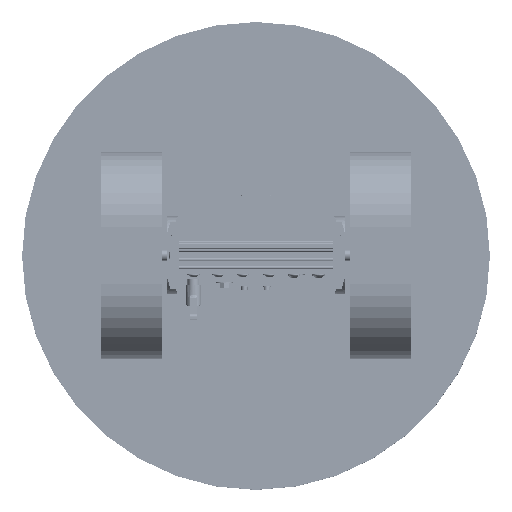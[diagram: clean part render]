
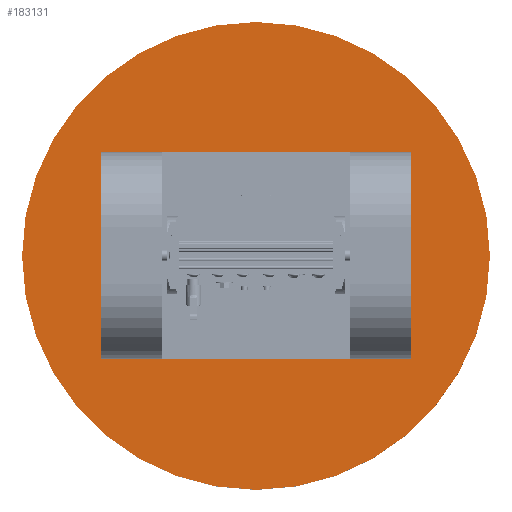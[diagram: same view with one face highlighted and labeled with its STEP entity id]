
A CAD part, top view. The second image highlights one B-rep face of the part: STEP entity #183131.
In plain terms, the highlighted planar face has unit normal (0, 0, 1).
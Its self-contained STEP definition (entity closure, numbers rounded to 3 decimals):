
#24649 = AXIS2_PLACEMENT_3D ( 'NONE', #292663, #425763, #341773 ) ;
#60398 = DIRECTION ( 'NONE',  ( 0., -1., 0. ) ) ;
#79988 = CIRCLE ( 'NONE', #24649, 313.17 ) ;
#86116 = CARTESIAN_POINT ( 'NONE',  ( 134.556, -103.964, -7.208 ) ) ;
#99149 = DIRECTION ( 'NONE',  ( 0., 1., 0. ) ) ;
#103852 = PLANE ( 'NONE',  #490194 ) ;
#126151 = CARTESIAN_POINT ( 'NONE',  ( 134.556, 209.206, -7.208 ) ) ;
#182294 = VERTEX_POINT ( 'NONE', #86116 ) ;
#183131 = ADVANCED_FACE ( 'NONE', ( #271914 ), #103852, .T. ) ;
#201346 = VERTEX_POINT ( 'NONE', #367791 ) ;
#225579 = CARTESIAN_POINT ( 'NONE',  ( 134.556, 209.206, -7.208 ) ) ;
#271914 = FACE_OUTER_BOUND ( 'NONE', #452374, .T. ) ;
#292663 = CARTESIAN_POINT ( 'NONE',  ( 134.556, 209.206, -7.208 ) ) ;
#341773 = DIRECTION ( 'NONE',  ( 0., 1., 0. ) ) ;
#345008 = AXIS2_PLACEMENT_3D ( 'NONE', #126151, #495768, #99149 ) ;
#367791 = CARTESIAN_POINT ( 'NONE',  ( 134.556, 522.376, -7.208 ) ) ;
#425763 = DIRECTION ( 'NONE',  ( 0., 0., 1. ) ) ;
#444827 = EDGE_CURVE ( 'NONE', #182294, #201346, #483374, .T. ) ;
#452374 = EDGE_LOOP ( 'NONE', ( #506205, #452444 ) ) ;
#452444 = ORIENTED_EDGE ( 'NONE', *, *, #444827, .T. ) ;
#454003 = EDGE_CURVE ( 'NONE', #201346, #182294, #79988, .T. ) ;
#483374 = CIRCLE ( 'NONE', #345008, 313.17 ) ;
#490194 = AXIS2_PLACEMENT_3D ( 'NONE', #225579, #538142, #60398 ) ;
#495768 = DIRECTION ( 'NONE',  ( 0., 0., 1. ) ) ;
#506205 = ORIENTED_EDGE ( 'NONE', *, *, #454003, .T. ) ;
#538142 = DIRECTION ( 'NONE',  ( 0., 0., 1. ) ) ;
